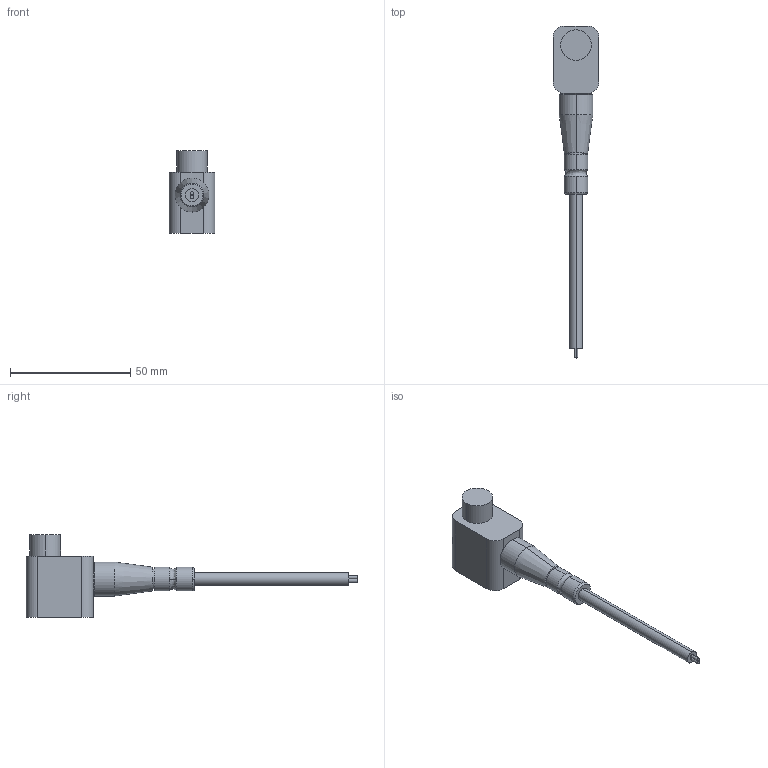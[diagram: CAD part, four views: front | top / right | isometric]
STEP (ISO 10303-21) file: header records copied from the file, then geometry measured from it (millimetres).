
FILE_DESCRIPTION (( 'STEP AP214' ), '1' );
FILE_NAME ('Fitting Conductivity Leak Detect.STEP', '2012-10-29T14:20:06', ( '' ), ( '' ), 'SwSTEP 2.0', 'SolidWorks 2012', '' );
FILE_SCHEMA (( 'AUTOMOTIVE_DESIGN' ));
Length unit declared in the file: inch
Products named in the file (1): Fitting Conductivity Leak Detect
Bounding box: 19.05 x 137.79 x 34.29 mm (x, y, z)
Volume: 21028.2 mm3; surface area: 7477.3 mm2
Topology: 7 solids, 7 shells, 91 faces, 194 edges, 122 vertices
Faces by surface type: cone 40, cylinder 24, plane 23, bspline 4
Entity records: 3823 total; most frequent: DIRECTION 488, CARTESIAN_POINT 468, ORIENTED_EDGE 388, AXIS2_PLACEMENT_3D 206, EDGE_CURVE 194, VERTEX_POINT 122, CIRCLE 118, UNCERTAINTY_MEASURE_WITH_UNIT 100
